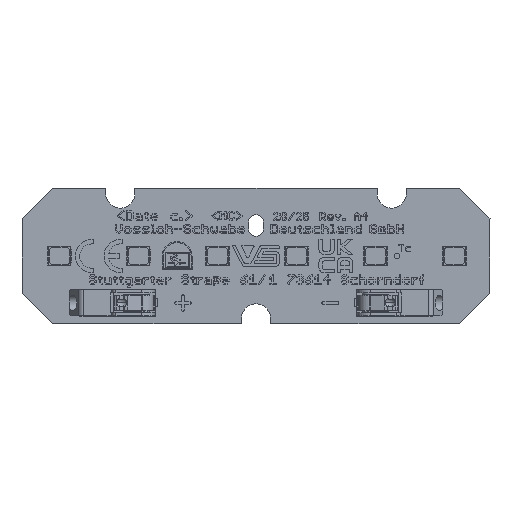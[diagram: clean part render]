
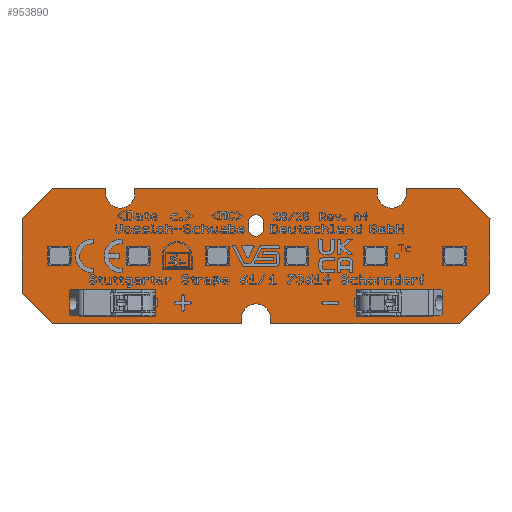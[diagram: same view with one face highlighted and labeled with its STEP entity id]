
A CAD part, top view. The second image highlights one B-rep face of the part: STEP entity #953890.
In plain terms, the highlighted planar face has unit normal (0, 0, 1).
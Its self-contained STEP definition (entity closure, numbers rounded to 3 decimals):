
#951830=CARTESIAN_POINT('',(0.,0.,0.));
#951840=DIRECTION('',(0.,0.,1.));
#951850=DIRECTION('',(1.,0.,0.));
#951860=AXIS2_PLACEMENT_3D('',#951830,#951840,#951850);
#951870=PLANE('',#951860);
#951880=CARTESIAN_POINT('',(0.,4.5,0.));
#951890=DIRECTION('',(0.,1.,0.));
#951900=VECTOR('',#951890,0.039);
#951910=LINE('',#951880,#951900);
#951920=CARTESIAN_POINT('',(0.,4.5,0.));
#951930=VERTEX_POINT('',#951920);
#951940=CARTESIAN_POINT('',(0.,15.5,0.));
#951950=VERTEX_POINT('',#951940);
#951960=EDGE_CURVE('',#951930,#951950,#951910,.T.);
#951970=ORIENTED_EDGE('',*,*,#951960,.F.);
#951980=CARTESIAN_POINT('',(0.,15.5,0.));
#951990=DIRECTION('',(0.707,0.707,0.));
#952000=VECTOR('',#951990,0.039);
#952010=LINE('',#951980,#952000);
#952020=CARTESIAN_POINT('',(4.5,20.,0.));
#952030=VERTEX_POINT('',#952020);
#952040=EDGE_CURVE('',#951950,#952030,#952010,.T.);
#952050=ORIENTED_EDGE('',*,*,#952040,.F.);
#952060=CARTESIAN_POINT('',(4.5,20.,0.));
#952070=DIRECTION('',(1.,0.,0.));
#952080=VECTOR('',#952070,0.039);
#952090=LINE('',#952060,#952080);
#952100=CARTESIAN_POINT('',(12.35,20.,0.));
#952110=VERTEX_POINT('',#952100);
#952120=EDGE_CURVE('',#952030,#952110,#952090,.T.);
#952130=ORIENTED_EDGE('',*,*,#952120,.F.);
#952140=CARTESIAN_POINT('',(12.35,20.,0.));
#952150=DIRECTION('',(0.,-1.,0.));
#952160=VECTOR('',#952150,0.039);
#952170=LINE('',#952140,#952160);
#952180=CARTESIAN_POINT('',(12.35,19.2,0.));
#952190=VERTEX_POINT('',#952180);
#952200=EDGE_CURVE('',#952110,#952190,#952170,.T.);
#952210=ORIENTED_EDGE('',*,*,#952200,.F.);
#952220=CARTESIAN_POINT('',(14.5,19.2,0.));
#952230=DIRECTION('',(0.,0.,1.));
#952240=DIRECTION('',(1.,0.,0.));
#952250=AXIS2_PLACEMENT_3D('',#952220,#952230,#952240);
#952260=CIRCLE('',#952250,2.15);
#952270=CARTESIAN_POINT('',(16.65,19.2,0.));
#952280=VERTEX_POINT('',#952270);
#952290=EDGE_CURVE('',#952190,#952280,#952260,.T.);
#952300=ORIENTED_EDGE('',*,*,#952290,.F.);
#952310=CARTESIAN_POINT('',(16.65,19.2,0.));
#952320=DIRECTION('',(0.,1.,0.));
#952330=VECTOR('',#952320,0.039);
#952340=LINE('',#952310,#952330);
#952350=CARTESIAN_POINT('',(16.65,20.,0.));
#952360=VERTEX_POINT('',#952350);
#952370=EDGE_CURVE('',#952280,#952360,#952340,.T.);
#952380=ORIENTED_EDGE('',*,*,#952370,.F.);
#952390=CARTESIAN_POINT('',(16.65,20.,0.));
#952400=DIRECTION('',(1.,0.,0.));
#952410=VECTOR('',#952400,0.039);
#952420=LINE('',#952390,#952410);
#952430=CARTESIAN_POINT('',(52.35,20.,0.));
#952440=VERTEX_POINT('',#952430);
#952450=EDGE_CURVE('',#952360,#952440,#952420,.T.);
#952460=ORIENTED_EDGE('',*,*,#952450,.F.);
#952470=CARTESIAN_POINT('',(52.35,20.,0.));
#952480=DIRECTION('',(0.,-1.,0.));
#952490=VECTOR('',#952480,0.039);
#952500=LINE('',#952470,#952490);
#952510=CARTESIAN_POINT('',(52.35,19.2,0.));
#952520=VERTEX_POINT('',#952510);
#952530=EDGE_CURVE('',#952440,#952520,#952500,.T.);
#952540=ORIENTED_EDGE('',*,*,#952530,.F.);
#952550=CARTESIAN_POINT('',(54.5,19.2,0.));
#952560=DIRECTION('',(0.,0.,1.));
#952570=DIRECTION('',(1.,0.,0.));
#952580=AXIS2_PLACEMENT_3D('',#952550,#952560,#952570);
#952590=CIRCLE('',#952580,2.15);
#952600=CARTESIAN_POINT('',(56.65,19.2,0.));
#952610=VERTEX_POINT('',#952600);
#952620=EDGE_CURVE('',#952520,#952610,#952590,.T.);
#952630=ORIENTED_EDGE('',*,*,#952620,.F.);
#952640=CARTESIAN_POINT('',(56.65,19.2,0.));
#952650=DIRECTION('',(0.,1.,0.));
#952660=VECTOR('',#952650,0.039);
#952670=LINE('',#952640,#952660);
#952680=CARTESIAN_POINT('',(56.65,20.,0.));
#952690=VERTEX_POINT('',#952680);
#952700=EDGE_CURVE('',#952610,#952690,#952670,.T.);
#952710=ORIENTED_EDGE('',*,*,#952700,.F.);
#952720=CARTESIAN_POINT('',(56.65,20.,0.));
#952730=DIRECTION('',(1.,0.,0.));
#952740=VECTOR('',#952730,0.039);
#952750=LINE('',#952720,#952740);
#952760=CARTESIAN_POINT('',(64.5,20.,0.));
#952770=VERTEX_POINT('',#952760);
#952780=EDGE_CURVE('',#952690,#952770,#952750,.T.);
#952790=ORIENTED_EDGE('',*,*,#952780,.F.);
#952800=CARTESIAN_POINT('',(64.5,20.,0.));
#952810=DIRECTION('',(0.707,-0.707,0.));
#952820=VECTOR('',#952810,0.039);
#952830=LINE('',#952800,#952820);
#952840=CARTESIAN_POINT('',(69.,15.5,0.));
#952850=VERTEX_POINT('',#952840);
#952860=EDGE_CURVE('',#952770,#952850,#952830,.T.);
#952870=ORIENTED_EDGE('',*,*,#952860,.F.);
#952880=CARTESIAN_POINT('',(69.,15.5,0.));
#952890=DIRECTION('',(0.,-1.,0.));
#952900=VECTOR('',#952890,0.039);
#952910=LINE('',#952880,#952900);
#952920=CARTESIAN_POINT('',(69.,4.5,0.));
#952930=VERTEX_POINT('',#952920);
#952940=EDGE_CURVE('',#952850,#952930,#952910,.T.);
#952950=ORIENTED_EDGE('',*,*,#952940,.F.);
#952960=CARTESIAN_POINT('',(69.,4.5,0.));
#952970=DIRECTION('',(-0.707,-0.707,0.));
#952980=VECTOR('',#952970,0.039);
#952990=LINE('',#952960,#952980);
#953000=CARTESIAN_POINT('',(64.5,0.,0.));
#953010=VERTEX_POINT('',#953000);
#953020=EDGE_CURVE('',#952930,#953010,#952990,.T.);
#953030=ORIENTED_EDGE('',*,*,#953020,.F.);
#953040=CARTESIAN_POINT('',(64.5,0.,0.));
#953050=DIRECTION('',(-1.,0.,0.));
#953060=VECTOR('',#953050,0.039);
#953070=LINE('',#953040,#953060);
#953080=CARTESIAN_POINT('',(36.65,0.,0.));
#953090=VERTEX_POINT('',#953080);
#953100=EDGE_CURVE('',#953010,#953090,#953070,.T.);
#953110=ORIENTED_EDGE('',*,*,#953100,.F.);
#953120=CARTESIAN_POINT('',(36.65,0.,0.));
#953130=DIRECTION('',(0.,1.,0.));
#953140=VECTOR('',#953130,0.039);
#953150=LINE('',#953120,#953140);
#953160=CARTESIAN_POINT('',(36.65,0.8,0.));
#953170=VERTEX_POINT('',#953160);
#953180=EDGE_CURVE('',#953090,#953170,#953150,.T.);
#953190=ORIENTED_EDGE('',*,*,#953180,.F.);
#953200=CARTESIAN_POINT('',(34.5,0.8,0.));
#953210=DIRECTION('',(0.,0.,1.));
#953220=DIRECTION('',(1.,0.,0.));
#953230=AXIS2_PLACEMENT_3D('',#953200,#953210,#953220);
#953240=CIRCLE('',#953230,2.15);
#953250=CARTESIAN_POINT('',(32.35,0.8,0.));
#953260=VERTEX_POINT('',#953250);
#953270=EDGE_CURVE('',#953170,#953260,#953240,.T.);
#953280=ORIENTED_EDGE('',*,*,#953270,.F.);
#953290=CARTESIAN_POINT('',(32.35,0.8,0.));
#953300=DIRECTION('',(0.,-1.,0.));
#953310=VECTOR('',#953300,0.039);
#953320=LINE('',#953290,#953310);
#953330=CARTESIAN_POINT('',(32.35,0.,0.));
#953340=VERTEX_POINT('',#953330);
#953350=EDGE_CURVE('',#953260,#953340,#953320,.T.);
#953360=ORIENTED_EDGE('',*,*,#953350,.F.);
#953370=CARTESIAN_POINT('',(32.35,0.,0.));
#953380=DIRECTION('',(-1.,0.,0.));
#953390=VECTOR('',#953380,0.039);
#953400=LINE('',#953370,#953390);
#953410=CARTESIAN_POINT('',(4.5,0.,0.));
#953420=VERTEX_POINT('',#953410);
#953430=EDGE_CURVE('',#953340,#953420,#953400,.T.);
#953440=ORIENTED_EDGE('',*,*,#953430,.F.);
#953450=CARTESIAN_POINT('',(4.5,0.,0.));
#953460=DIRECTION('',(-0.707,0.707,0.));
#953470=VECTOR('',#953460,0.039);
#953480=LINE('',#953450,#953470);
#953490=EDGE_CURVE('',#953420,#951930,#953480,.T.);
#953500=ORIENTED_EDGE('',*,*,#953490,.F.);
#953510=EDGE_LOOP('',(#953500,#953440,#953360,#953280,#953190,#953110,
#953030,#952950,#952870,#952790,#952710,#952630,#952540,#952460,#952380,
#952300,#952210,#952130,#952050,#951970));
#953520=FACE_OUTER_BOUND('',#953510,.T.);
#953530=CARTESIAN_POINT('',(34.5,14.,0.));
#953540=DIRECTION('',(0.,0.,1.));
#953550=DIRECTION('',(1.,0.,0.));
#953560=AXIS2_PLACEMENT_3D('',#953530,#953540,#953550);
#953570=CIRCLE('',#953560,1.1);
#953580=CARTESIAN_POINT('',(33.4,14.,0.));
#953590=VERTEX_POINT('',#953580);
#953600=CARTESIAN_POINT('',(35.6,14.,0.));
#953610=VERTEX_POINT('',#953600);
#953620=EDGE_CURVE('',#953590,#953610,#953570,.T.);
#953630=ORIENTED_EDGE('',*,*,#953620,.F.);
#953640=CARTESIAN_POINT('',(35.6,14.,0.));
#953650=DIRECTION('',(0.,1.,0.));
#953660=VECTOR('',#953650,0.039);
#953670=LINE('',#953640,#953660);
#953680=CARTESIAN_POINT('',(35.6,15.,0.));
#953690=VERTEX_POINT('',#953680);
#953700=EDGE_CURVE('',#953610,#953690,#953670,.T.);
#953710=ORIENTED_EDGE('',*,*,#953700,.F.);
#953720=CARTESIAN_POINT('',(34.5,15.,0.));
#953730=DIRECTION('',(0.,0.,1.));
#953740=DIRECTION('',(1.,0.,0.));
#953750=AXIS2_PLACEMENT_3D('',#953720,#953730,#953740);
#953760=CIRCLE('',#953750,1.1);
#953770=CARTESIAN_POINT('',(33.4,15.,0.));
#953780=VERTEX_POINT('',#953770);
#953790=EDGE_CURVE('',#953690,#953780,#953760,.T.);
#953800=ORIENTED_EDGE('',*,*,#953790,.F.);
#953810=CARTESIAN_POINT('',(33.4,15.,0.));
#953820=DIRECTION('',(0.,-1.,0.));
#953830=VECTOR('',#953820,0.039);
#953840=LINE('',#953810,#953830);
#953850=EDGE_CURVE('',#953780,#953590,#953840,.T.);
#953860=ORIENTED_EDGE('',*,*,#953850,.F.);
#953870=EDGE_LOOP('',(#953860,#953800,#953710,#953630));
#953880=FACE_BOUND('',#953870,.T.);
#953890=ADVANCED_FACE('',(#953520,#953880),#951870,.T.);
